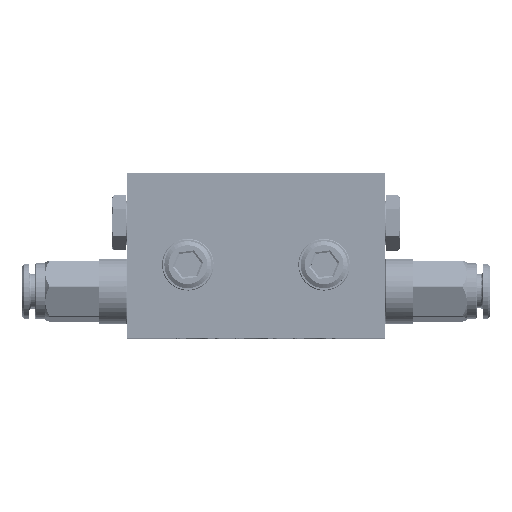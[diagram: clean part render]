
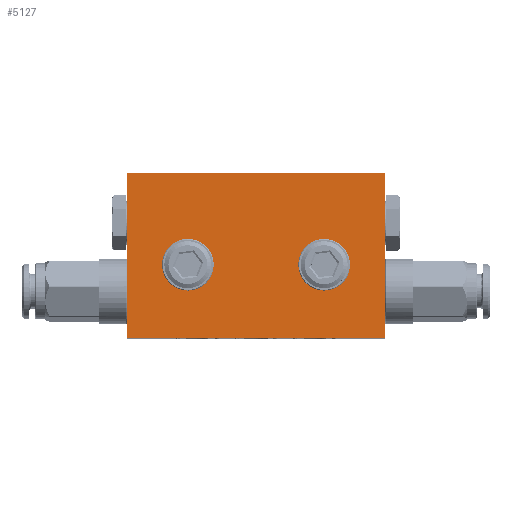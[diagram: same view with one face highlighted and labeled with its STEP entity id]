
A CAD part, top view. The second image highlights one B-rep face of the part: STEP entity #5127.
In plain terms, the highlighted planar face has unit normal (0, 0, 1) as drawn and (0, 0, -1) by its records, which use the part's own axes.
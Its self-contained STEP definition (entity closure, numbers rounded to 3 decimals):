
#2081 = ORIENTED_EDGE ( 'NONE', *, *, #19872, .F. ) ;
#2892 = CARTESIAN_POINT ( 'NONE',  ( 14.5, -15.5, -4.85 ) ) ;
#3215 = DIRECTION ( 'NONE',  ( 0., 0., 1. ) ) ;
#3444 = EDGE_CURVE ( 'NONE', #9778, #35687, #15648, .T. ) ;
#4882 = ORIENTED_EDGE ( 'NONE', *, *, #3444, .F. ) ;
#5057 = EDGE_LOOP ( 'NONE', ( #2081, #32636, #11497, #4882 ) ) ;
#5127 = ADVANCED_FACE ( 'NONE', ( #25288, #29002, #18418 ), #21862, .F. ) ;
#7286 = EDGE_CURVE ( 'NONE', #22195, #22195, #15330, .T. ) ;
#8591 = CARTESIAN_POINT ( 'NONE',  ( 0., -35., -4.85 ) ) ;
#9778 = VERTEX_POINT ( 'NONE', #19733 ) ;
#9807 = ORIENTED_EDGE ( 'NONE', *, *, #32547, .F. ) ;
#11497 = ORIENTED_EDGE ( 'NONE', *, *, #41241, .F. ) ;
#13275 = CIRCLE ( 'NONE', #20347, 3.1 ) ;
#13644 = CARTESIAN_POINT ( 'NONE',  ( 0., 0., -4.85 ) ) ;
#15239 = CARTESIAN_POINT ( 'NONE',  ( -14.5, -15.5, -4.85 ) ) ;
#15330 = CIRCLE ( 'NONE', #40439, 3.1 ) ;
#15648 = LINE ( 'NONE', #26927, #32669 ) ;
#18418 = FACE_OUTER_BOUND ( 'NONE', #5057, .T. ) ;
#18761 = VECTOR ( 'NONE', #34096, 1000. ) ;
#19733 = CARTESIAN_POINT ( 'NONE',  ( 27.5, -35., -4.85 ) ) ;
#19872 = EDGE_CURVE ( 'NONE', #28618, #9778, #45653, .T. ) ;
#20347 = AXIS2_PLACEMENT_3D ( 'NONE', #2892, #21538, #48057 ) ;
#21487 = CARTESIAN_POINT ( 'NONE',  ( -11.4, -15.5, -4.85 ) ) ;
#21538 = DIRECTION ( 'NONE',  ( 0., 0., -1. ) ) ;
#21607 = VECTOR ( 'NONE', #36458, 1000. ) ;
#21862 = PLANE ( 'NONE',  #39063 ) ;
#22195 = VERTEX_POINT ( 'NONE', #21487 ) ;
#24591 = CARTESIAN_POINT ( 'NONE',  ( -27.5, 0., -4.85 ) ) ;
#25215 = EDGE_CURVE ( 'NONE', #30863, #28618, #33096, .T. ) ;
#25288 = FACE_BOUND ( 'NONE', #43845, .T. ) ;
#25564 = CARTESIAN_POINT ( 'NONE',  ( 11.4, -15.5, -4.85 ) ) ;
#26204 = DIRECTION ( 'NONE',  ( 0., 1., 0. ) ) ;
#26646 = ORIENTED_EDGE ( 'NONE', *, *, #7286, .F. ) ;
#26927 = CARTESIAN_POINT ( 'NONE',  ( 27.5, 0., -4.85 ) ) ;
#28618 = VERTEX_POINT ( 'NONE', #39065 ) ;
#29002 = FACE_BOUND ( 'NONE', #32781, .T. ) ;
#30863 = VERTEX_POINT ( 'NONE', #24591 ) ;
#32547 = EDGE_CURVE ( 'NONE', #47471, #47471, #13275, .T. ) ;
#32636 = ORIENTED_EDGE ( 'NONE', *, *, #25215, .F. ) ;
#32669 = VECTOR ( 'NONE', #26204, 1000. ) ;
#32781 = EDGE_LOOP ( 'NONE', ( #9807 ) ) ;
#33096 = LINE ( 'NONE', #33327, #36502 ) ;
#33327 = CARTESIAN_POINT ( 'NONE',  ( -27.5, 0., -4.85 ) ) ;
#34096 = DIRECTION ( 'NONE',  ( 1., 0., 0. ) ) ;
#35687 = VERTEX_POINT ( 'NONE', #39118 ) ;
#36458 = DIRECTION ( 'NONE',  ( -1., 0., 0. ) ) ;
#36502 = VECTOR ( 'NONE', #48069, 1000. ) ;
#37853 = DIRECTION ( 'NONE',  ( 0., 0., -1. ) ) ;
#39063 = AXIS2_PLACEMENT_3D ( 'NONE', #40064, #3215, #44457 ) ;
#39065 = CARTESIAN_POINT ( 'NONE',  ( -27.5, -35., -4.85 ) ) ;
#39118 = CARTESIAN_POINT ( 'NONE',  ( 27.5, 0., -4.85 ) ) ;
#40064 = CARTESIAN_POINT ( 'NONE',  ( 0., 0., -4.85 ) ) ;
#40439 = AXIS2_PLACEMENT_3D ( 'NONE', #15239, #37853, #41530 ) ;
#41241 = EDGE_CURVE ( 'NONE', #35687, #30863, #42882, .T. ) ;
#41530 = DIRECTION ( 'NONE',  ( 1., 0., 0. ) ) ;
#42882 = LINE ( 'NONE', #13644, #21607 ) ;
#43845 = EDGE_LOOP ( 'NONE', ( #26646 ) ) ;
#44457 = DIRECTION ( 'NONE',  ( 1., 0., 0. ) ) ;
#45653 = LINE ( 'NONE', #8591, #18761 ) ;
#47471 = VERTEX_POINT ( 'NONE', #25564 ) ;
#48057 = DIRECTION ( 'NONE',  ( -1., 0., 0. ) ) ;
#48069 = DIRECTION ( 'NONE',  ( 0., -1., 0. ) ) ;
